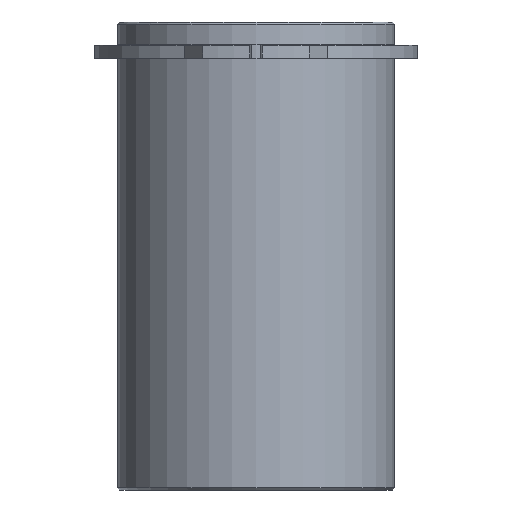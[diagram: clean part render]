
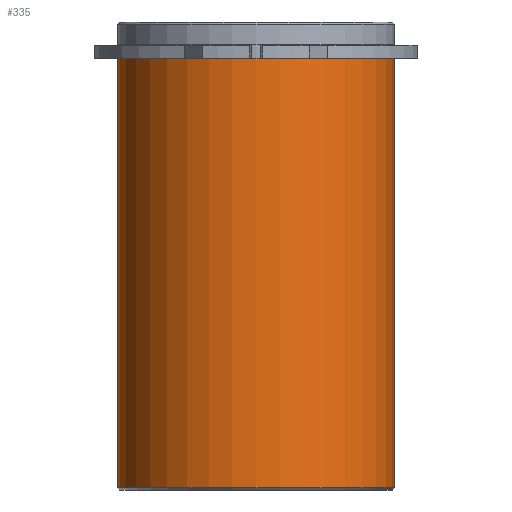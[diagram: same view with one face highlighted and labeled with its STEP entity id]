
A CAD part, front view. The second image highlights one B-rep face of the part: STEP entity #335.
In plain terms, the highlighted cylindrical face has radius 18.625 mm (diameter 37.25 mm), a partial arc.
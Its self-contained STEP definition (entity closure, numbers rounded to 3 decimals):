
#294=CARTESIAN_POINT('',(0.0,0.,-28.9));
#295=DIRECTION('',(0.0,0.,1.0));
#296=DIRECTION('',(1.0,0.0,0.0));
#297=AXIS2_PLACEMENT_3D('',#294,#295,#296);
#298=CYLINDRICAL_SURFACE('',#297,18.625);
#299=CARTESIAN_POINT('',(18.625,0.0,0.0));
#300=VERTEX_POINT('',#299);
#301=CARTESIAN_POINT('',(18.625,0.,-57.8));
#302=VERTEX_POINT('',#301);
#303=CARTESIAN_POINT('',(18.625,0.0,0.0));
#304=DIRECTION('',(0.0,0.0,-1.0));
#305=VECTOR('',#304,57.8);
#306=LINE('',#303,#305);
#307=EDGE_CURVE('',#300,#302,#306,.T.);
#308=ORIENTED_EDGE('',*,*,#307,.F.);
#309=CARTESIAN_POINT('',(-18.625,0.,0.0));
#310=VERTEX_POINT('',#309);
#311=CARTESIAN_POINT('',(0.0,0.0,0.0));
#312=DIRECTION('',(0.0,0.0,1.0));
#313=DIRECTION('',(1.0,0.0,0.0));
#314=AXIS2_PLACEMENT_3D('',#311,#312,#313);
#315=CIRCLE('',#314,18.625);
#316=EDGE_CURVE('',#310,#300,#315,.T.);
#317=ORIENTED_EDGE('',*,*,#316,.F.);
#318=CARTESIAN_POINT('',(-18.625,0.,-57.8));
#319=VERTEX_POINT('',#318);
#320=CARTESIAN_POINT('',(-18.625,0.,0.0));
#321=DIRECTION('',(0.0,0.0,-1.0));
#322=VECTOR('',#321,57.8);
#323=LINE('',#320,#322);
#324=EDGE_CURVE('',#310,#319,#323,.T.);
#325=ORIENTED_EDGE('',*,*,#324,.T.);
#326=CARTESIAN_POINT('',(0.0,0.,-57.8));
#327=DIRECTION('',(0.0,0.0,1.0));
#328=DIRECTION('',(1.0,0.0,0.0));
#329=AXIS2_PLACEMENT_3D('',#326,#327,#328);
#330=CIRCLE('',#329,18.625);
#331=EDGE_CURVE('',#319,#302,#330,.T.);
#332=ORIENTED_EDGE('',*,*,#331,.T.);
#333=EDGE_LOOP('',(#308,#317,#325,#332));
#334=FACE_OUTER_BOUND('',#333,.T.);
#335=ADVANCED_FACE('',(#334),#298,.T.);
